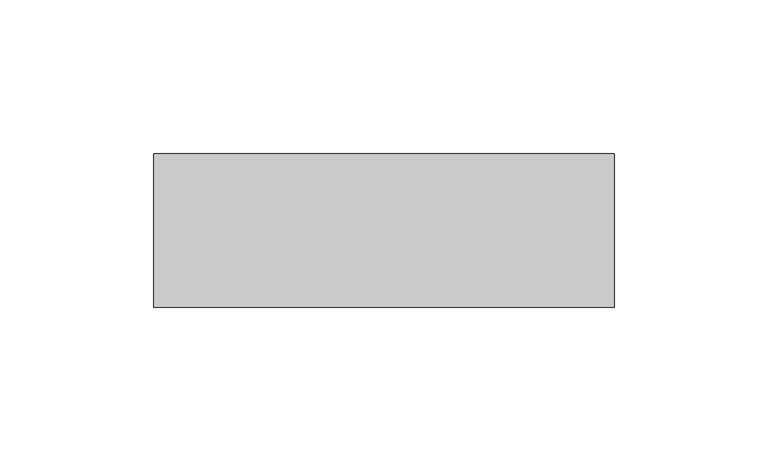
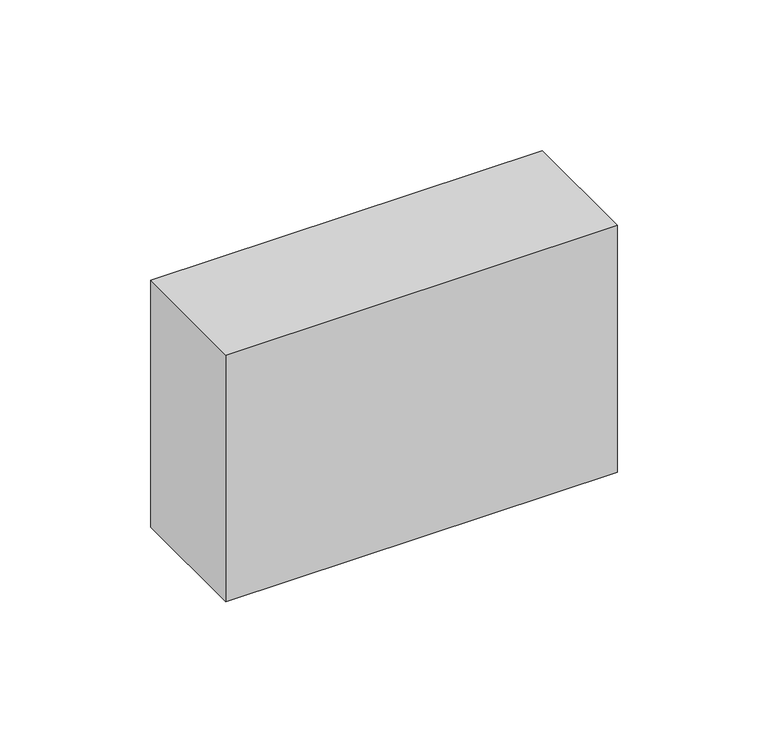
"""IFC4 building model written with IfcOpenShell, lengths in millimetres: alarm geometry, Optiskt larmdon : Optiskt larmdon."""

from ifc_helpers import new_model, si_unit, frame, origin, place, context, project, spatial, polyline, outline, extrude, source, transform, mapped, element, save


def alarm_f1b3331a(model_context):
    return source(origin(), model_context, "Body", "SweptSolid", [
        extrude(outline(polyline([(75.0, 0.0), (75.0, -50.0), (-75.0, -50.0), (-75.0, 0.0), (75.0, 0.0)])), frame((0.0, 0.0, 1800.0), z_axis=(0.0, 0.0, 1.0), x_axis=(1.0, 0.0, 0.0)), (0.0, 0.0, 1.0), 100.0),
    ])


if __name__ == "__main__":
    model = new_model("IFC4")
    model_context = context("Model", 3, world=origin())
    ifc_project = project(units=[si_unit("LENGTHUNIT", "METRE", prefix="MILLI")], contexts=[model_context])
    site = spatial("IfcSite", under=ifc_project)
    building = spatial("IfcBuilding", under=site)
    placement = place(None, origin())
    alarm_shape = alarm_f1b3331a(model_context)
    element("IfcAlarm", 1, ObjectType="Optiskt larmdon : Optiskt larmdon", at=placement, inside=building, context=model_context, shape_type="MappedRepresentation", body=[
        mapped(alarm_shape, transform((0.0, 0.0, 0.0), x_axis=(1.0, 0.0, 0.0), y_axis=(0.0, 1.0, 0.0), z_axis=(0.0, 0.0, 1.0))),
    ])
    save(model, "model.ifc")
